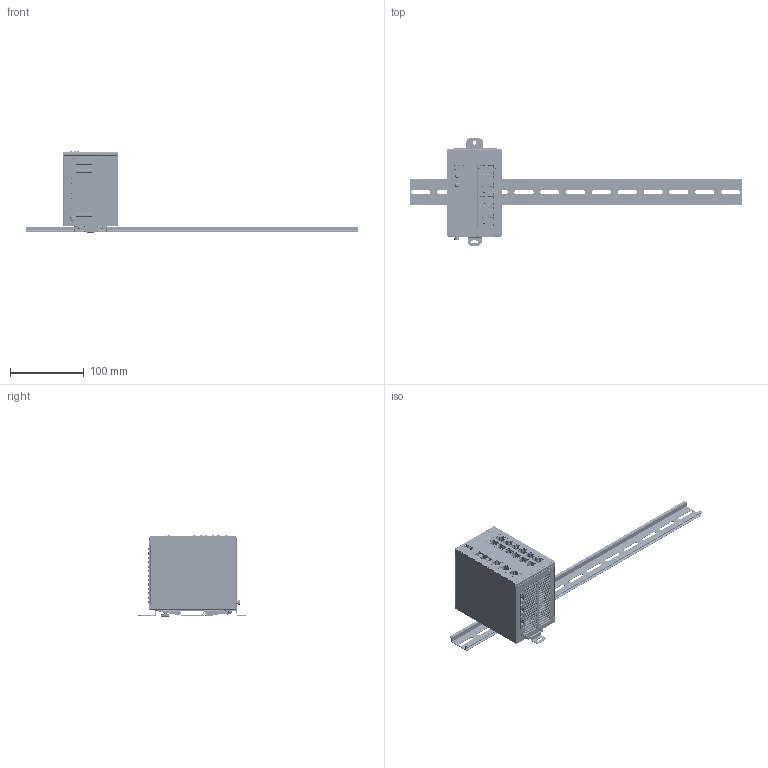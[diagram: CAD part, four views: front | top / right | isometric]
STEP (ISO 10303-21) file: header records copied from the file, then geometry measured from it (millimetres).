
FILE_DESCRIPTION((''),'2;1');
FILE_NAME('DVS-016W01-MC01_ASM','2014-12-08T',('ANDREW.AS.SUN'),(''),'PRO/ENGINEER BY PARAMETRIC TECHNOLOGY CORPORATION, 2010280','PRO/ENGINEER BY PARAMETRIC TECHNOLOGY CORPORATION, 2010280','');
FILE_SCHEMA(('CONFIG_CONTROL_DESIGN'));
Products named in the file (55): BASE-8P; COVER-8P; PANEL-8P; PCB-M-8P; STAND_OFF_30; MSD32_MALE; TB293; DIN-SWITCH-5PIN; 1X3_G-G; 1X1_LED; OPT-155B; 307228297C-EM50188GF2NN46PF; PCB-M-8P_ASM; PCB-M-16P; MSD232_FEMALE; RJD5-20B; RJDX-512-1; SHANGDUAN1; SHANGDUAN2; SHANGDUAN3; SHANGDUAN4; SHANGDUAN5; SHANGDUAN6; SHANGDUAN7; SHANGDUAN8; RJDX-510-X1-D-1; RJD5-501; RJD101; UP_LED; UP_LED_LEFT; DOWN_LED; DOWN_LED_LEFT; DOWN_LED_LONG; DOWN_LED_LONG_LEFT; SHELL; 307229107C_RJ45_ASM; HSK; PCB-M-16P_ASM; NAMEPLATE; 3105460500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
Assembly tree (153 placements, depth 4):
  DVS-016W01-MC01_ASM
    BASE-8P
    COVER-8P
    PANEL-8P
    PCB-M-8P_ASM
      PCB-M-8P
      STAND_OFF_30  x4
      MSD32_MALE
      TB293  x3
      DIN-SWITCH-5PIN
      1X3_G-G
      1X1_LED
      OPT-155B
      307228297C-EM50188GF2NN46PF  x3
    PCB-M-16P_ASM
      PCB-M-16P
      MSD232_FEMALE
      307229107C_RJ45_ASM
        RJD5-20B
        RJDX-512-1  x6
        SHANGDUAN1  x6
        SHANGDUAN2  x6
        SHANGDUAN3  x6
        SHANGDUAN4  x6
        SHANGDUAN5  x6
        SHANGDUAN6  x6
        SHANGDUAN7  x6
        SHANGDUAN8  x6
        RJDX-510-X1-D-1  x6
        RJD5-501  x6
        RJD101  x6
        UP_LED  x6
        UP_LED_LEFT  x6
        DOWN_LED  x4
        DOWN_LED_LEFT  x3
        DOWN_LED_LONG  x2
        DOWN_LED_LONG_LEFT  x3
        SHELL
      HSK
    NAMEPLATE
    3105460500  x10
    LOGO-2
    STUD_M3_0-S  x2
    MYLAY
    STUD_M3_0  x2
    SCREW_M4
    BACK_PLATE_2
    SNAP
    SPRING
    SNAP2_ASM
      SNAP_2
      46-111-501-1_20100903_
    3100320300-SCREW  x4
    DIN-RAIL
    LABEL
Bounding box: 450 x 145.3 x 110.62 mm (x, y, z)
Volume: 206300.9 mm3; surface area: 401762.8 mm2
Topology: 155 solids, 179 shells, 16153 faces, 43715 edges, 27970 vertices
Faces by surface type: plane 12831, cylinder 2697, bspline 299, cone 154, torus 111, extrusion 53, sphere 8
Entity records: 327442 total; most frequent: CARTESIAN_POINT 76632, ORIENTED_EDGE 52968, DIRECTION 49495, EDGE_CURVE 26531, VECTOR 21937, LINE 21884, VERTEX_POINT 16865, AXIS2_PLACEMENT_3D 13779
